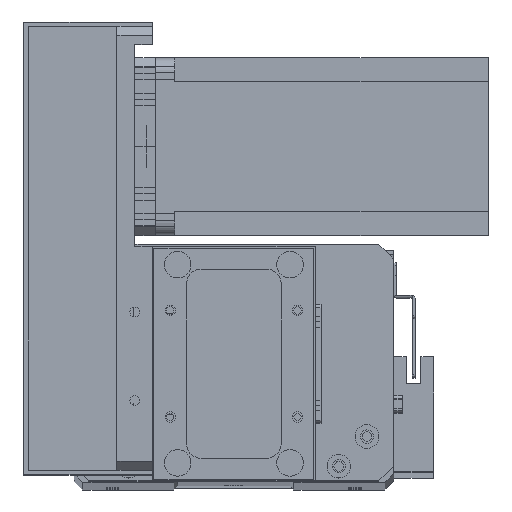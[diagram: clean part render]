
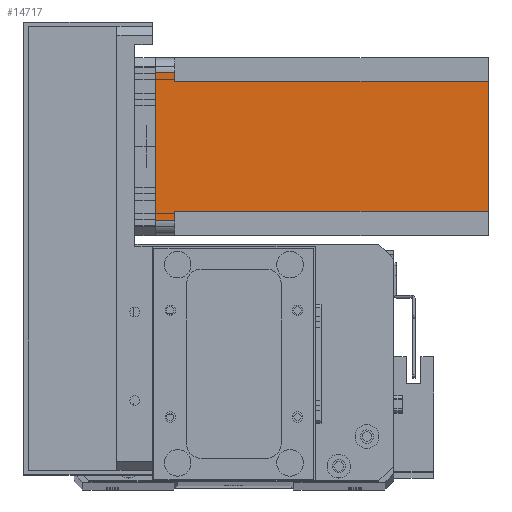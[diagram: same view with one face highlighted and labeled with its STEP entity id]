
A CAD part, top view. The second image highlights one B-rep face of the part: STEP entity #14717.
In plain terms, the highlighted planar face has unit normal (0, 0, 1) as drawn and (0, -1, 0) by its records, which use the part's own axes.
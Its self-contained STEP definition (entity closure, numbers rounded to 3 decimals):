
#187 = DIRECTION ( 'NONE',  ( 0., 0., 1. ) ) ;
#331 = DIRECTION ( 'NONE',  ( -1., 0., 0. ) ) ;
#367 = EDGE_CURVE ( 'NONE', #2780, #26571, #18149, .T. ) ;
#1484 = CARTESIAN_POINT ( 'NONE',  ( 55., 0., 0. ) ) ;
#1634 = VECTOR ( 'NONE', #187, 1000. ) ;
#2009 = ORIENTED_EDGE ( 'NONE', *, *, #24951, .F. ) ;
#2780 = VERTEX_POINT ( 'NONE', #29432 ) ;
#3139 = DIRECTION ( 'NONE',  ( 1., 0., 0. ) ) ;
#3529 = ORIENTED_EDGE ( 'NONE', *, *, #24898, .T. ) ;
#3544 = VERTEX_POINT ( 'NONE', #11789 ) ;
#3631 = LINE ( 'NONE', #25292, #9522 ) ;
#4225 = DIRECTION ( 'NONE',  ( 0., -1., 0. ) ) ;
#4383 = DIRECTION ( 'NONE',  ( 0., 0., -1. ) ) ;
#5198 = LINE ( 'NONE', #20256, #11831 ) ;
#5238 = VERTEX_POINT ( 'NONE', #11312 ) ;
#5762 = DIRECTION ( 'NONE',  ( 1., 0., 0. ) ) ;
#6990 = VECTOR ( 'NONE', #4383, 1000. ) ;
#8816 = ORIENTED_EDGE ( 'NONE', *, *, #14059, .F. ) ;
#8873 = CARTESIAN_POINT ( 'NONE',  ( 5., 0., -6.5 ) ) ;
#9010 = LINE ( 'NONE', #15183, #27406 ) ;
#9522 = VECTOR ( 'NONE', #5762, 1000. ) ;
#11312 = CARTESIAN_POINT ( 'NONE',  ( 8., 0., -112.5 ) ) ;
#11789 = CARTESIAN_POINT ( 'NONE',  ( 5., 0., 0. ) ) ;
#11831 = VECTOR ( 'NONE', #3139, 1000. ) ;
#11922 = CARTESIAN_POINT ( 'NONE',  ( 5., 0., -112.5 ) ) ;
#12137 = EDGE_CURVE ( 'NONE', #3544, #24565, #19921, .T. ) ;
#12679 = EDGE_CURVE ( 'NONE', #20845, #21389, #13534, .T. ) ;
#13072 = LINE ( 'NONE', #16026, #17222 ) ;
#13534 = LINE ( 'NONE', #16657, #6990 ) ;
#13573 = CARTESIAN_POINT ( 'NONE',  ( 52., 0., -6.5 ) ) ;
#13966 = EDGE_LOOP ( 'NONE', ( #16050, #25991, #2009, #14910, #15660, #8816, #3529, #25908 ) ) ;
#14059 = EDGE_CURVE ( 'NONE', #5238, #16671, #13072, .T. ) ;
#14717 = ADVANCED_FACE ( 'NONE', ( #29463 ), #21209, .T. ) ;
#14910 = ORIENTED_EDGE ( 'NONE', *, *, #12137, .T. ) ;
#14976 = CARTESIAN_POINT ( 'NONE',  ( 8., 0., -6.5 ) ) ;
#15151 = AXIS2_PLACEMENT_3D ( 'NONE', #18931, #4225, #21317 ) ;
#15183 = CARTESIAN_POINT ( 'NONE',  ( 8., 0., -6.5 ) ) ;
#15660 = ORIENTED_EDGE ( 'NONE', *, *, #30982, .F. ) ;
#15968 = CARTESIAN_POINT ( 'NONE',  ( 52., 0., -112.5 ) ) ;
#16026 = CARTESIAN_POINT ( 'NONE',  ( 8., 0., -112.5 ) ) ;
#16050 = ORIENTED_EDGE ( 'NONE', *, *, #22685, .T. ) ;
#16526 = LINE ( 'NONE', #22760, #17264 ) ;
#16657 = CARTESIAN_POINT ( 'NONE',  ( 52., 0., -112.5 ) ) ;
#16671 = VERTEX_POINT ( 'NONE', #14976 ) ;
#17222 = VECTOR ( 'NONE', #27893, 1000. ) ;
#17264 = VECTOR ( 'NONE', #20248, 1000. ) ;
#18149 = LINE ( 'NONE', #31242, #1634 ) ;
#18931 = CARTESIAN_POINT ( 'NONE',  ( 0., 0., -112.5 ) ) ;
#19102 = DIRECTION ( 'NONE',  ( 0., 0., -1. ) ) ;
#19205 = VECTOR ( 'NONE', #19102, 1000. ) ;
#19921 = LINE ( 'NONE', #11922, #19205 ) ;
#20248 = DIRECTION ( 'NONE',  ( 1., 0., 0. ) ) ;
#20256 = CARTESIAN_POINT ( 'NONE',  ( 0., 0., -112.5 ) ) ;
#20845 = VERTEX_POINT ( 'NONE', #13573 ) ;
#21209 = PLANE ( 'NONE',  #15151 ) ;
#21317 = DIRECTION ( 'NONE',  ( 0., 0., -1. ) ) ;
#21389 = VERTEX_POINT ( 'NONE', #15968 ) ;
#22685 = EDGE_CURVE ( 'NONE', #20845, #2780, #16526, .T. ) ;
#22760 = CARTESIAN_POINT ( 'NONE',  ( 52., 0., -6.5 ) ) ;
#24565 = VERTEX_POINT ( 'NONE', #8873 ) ;
#24898 = EDGE_CURVE ( 'NONE', #5238, #21389, #5198, .T. ) ;
#24951 = EDGE_CURVE ( 'NONE', #3544, #26571, #3631, .T. ) ;
#25292 = CARTESIAN_POINT ( 'NONE',  ( 0., 0., 0. ) ) ;
#25908 = ORIENTED_EDGE ( 'NONE', *, *, #12679, .F. ) ;
#25991 = ORIENTED_EDGE ( 'NONE', *, *, #367, .T. ) ;
#26571 = VERTEX_POINT ( 'NONE', #1484 ) ;
#27406 = VECTOR ( 'NONE', #331, 1000. ) ;
#27893 = DIRECTION ( 'NONE',  ( 0., 0., 1. ) ) ;
#29432 = CARTESIAN_POINT ( 'NONE',  ( 55., 0., -6.5 ) ) ;
#29463 = FACE_OUTER_BOUND ( 'NONE', #13966, .T. ) ;
#30982 = EDGE_CURVE ( 'NONE', #16671, #24565, #9010, .T. ) ;
#31242 = CARTESIAN_POINT ( 'NONE',  ( 55., 0., -112.5 ) ) ;
